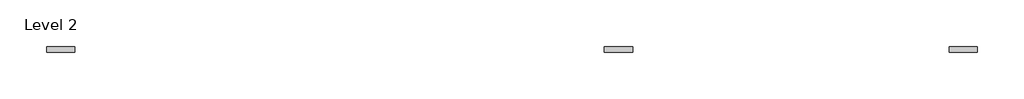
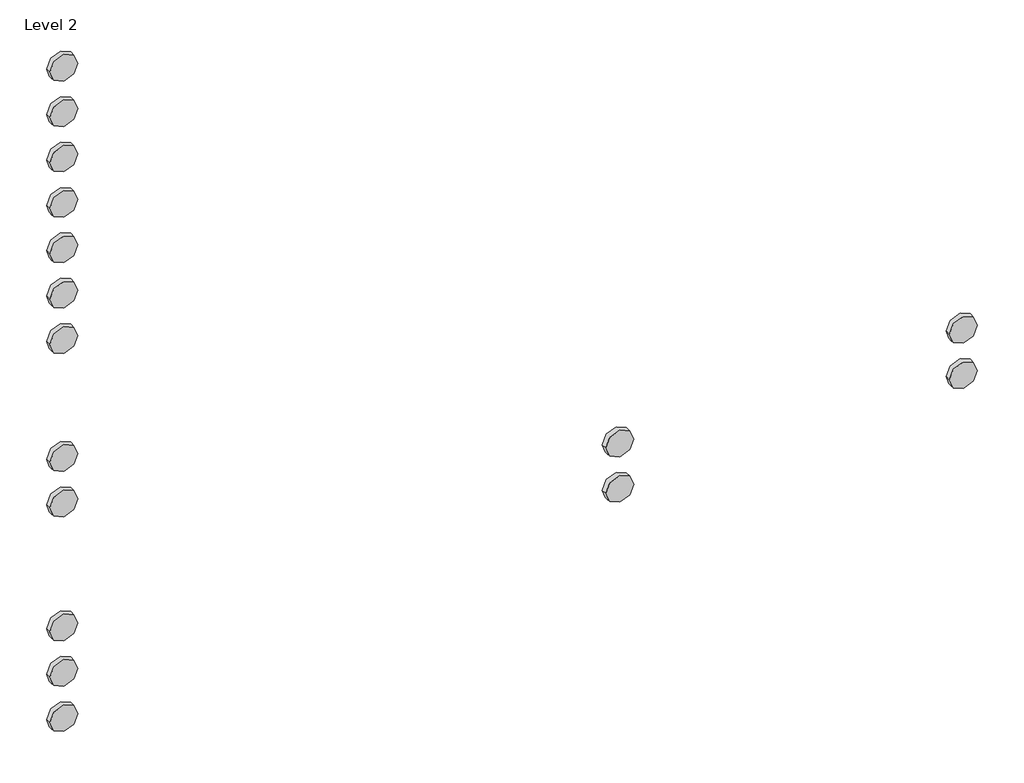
# One storey: 16 proxies.
"""IFC4 building model written with IfcOpenShell, lengths in millimetres."""

from ifc_helpers import new_model, si_unit, origin, place, context, project, spatial, transform, mapped, element, save
from components import materialmodel_materialmodel_13df9e44

model = new_model("IFC4")

# Units and contexts
model_context = context("Model", 3, world=origin())
ifc_project = project(units=[si_unit("LENGTHUNIT", "METRE", prefix="MILLI")], contexts=[model_context])

# Site, building, storey
site = spatial("IfcSite", under=ifc_project)
building = spatial("IfcBuilding", under=site)
storey = spatial("IfcBuildingStorey", under=building, Name="Level 2", Elevation=4000.0)

# Proxies
placement = place(None, origin())
materialmodel_materialmodel_shape = materialmodel_materialmodel_13df9e44(model_context)
element("IfcBuildingElementProxy", 1, Name="MaterialModel : MaterialModel", ObjectType="MaterialModel : MaterialModel", at=placement, inside=storey, context=model_context, shape_type="MappedRepresentation", body=[
    mapped(materialmodel_materialmodel_shape, transform((-4814.6293305, 28.2129507, -102.718204), x_axis=(1.0, 0.0, 0.0), y_axis=(0.0, 1.0, 0.0), z_axis=(0.0, 0.0, 1.0))),
])
element("IfcBuildingElementProxy", 2, Name="MaterialModel : MaterialModel", ObjectType="MaterialModel : MaterialModel", at=placement, inside=storey, context=model_context, shape_type="MappedRepresentation", body=[
    mapped(materialmodel_materialmodel_shape, transform((-4814.6293305, 28.2129507, -738.8923462), x_axis=(1.0, 0.0, 0.0), y_axis=(0.0, 1.0, 0.0), z_axis=(0.0, 0.0, 1.0))),
])
element("IfcBuildingElementProxy", 3, Name="MaterialModel : MaterialModel", ObjectType="MaterialModel : MaterialModel", at=placement, inside=storey, context=model_context, shape_type="MappedRepresentation", body=[
    mapped(materialmodel_materialmodel_shape, transform((-1622.2970499, 28.2129507, -738.8923462), x_axis=(1.0, 0.0, 0.0), y_axis=(0.0, 1.0, 0.0), z_axis=(0.0, 0.0, 1.0))),
])
element("IfcBuildingElementProxy", 4, Name="MaterialModel : MaterialModel", ObjectType="MaterialModel : MaterialModel", at=placement, inside=storey, context=model_context, shape_type="MappedRepresentation", body=[
    mapped(materialmodel_materialmodel_shape, transform((-4814.6293305, 28.2129507, -273.1991516), x_axis=(1.0, 0.0, 0.0), y_axis=(0.0, 1.0, 0.0), z_axis=(0.0, 0.0, 1.0))),
])
element("IfcBuildingElementProxy", 5, Name="MaterialModel : MaterialModel", ObjectType="MaterialModel : MaterialModel", at=placement, inside=storey, context=model_context, shape_type="MappedRepresentation", body=[
    mapped(materialmodel_materialmodel_shape, transform((-4814.6293305, 28.2129507, -909.3732938), x_axis=(1.0, 0.0, 0.0), y_axis=(0.0, 1.0, 0.0), z_axis=(0.0, 0.0, 1.0))),
])
element("IfcBuildingElementProxy", 6, Name="MaterialModel : MaterialModel", ObjectType="MaterialModel : MaterialModel", at=placement, inside=storey, context=model_context, shape_type="MappedRepresentation", body=[
    mapped(materialmodel_materialmodel_shape, transform((-1622.2970499, 28.2129507, -909.3732938), x_axis=(1.0, 0.0, 0.0), y_axis=(0.0, 1.0, 0.0), z_axis=(0.0, 0.0, 1.0))),
])
element("IfcBuildingElementProxy", 7, Name="MaterialModel : MaterialModel", ObjectType="MaterialModel : MaterialModel", at=placement, inside=storey, context=model_context, shape_type="MappedRepresentation", body=[
    mapped(materialmodel_materialmodel_shape, transform((-4814.6293305, 28.2129507, 1362.4370846), x_axis=(1.0, 0.0, 0.0), y_axis=(0.0, 1.0, 0.0), z_axis=(0.0, 0.0, 1.0))),
])
element("IfcBuildingElementProxy", 8, Name="MaterialModel : MaterialModel", ObjectType="MaterialModel : MaterialModel", at=placement, inside=storey, context=model_context, shape_type="MappedRepresentation", body=[
    mapped(materialmodel_materialmodel_shape, transform((-4814.6293305, 28.2129507, 1191.956137), x_axis=(1.0, 0.0, 0.0), y_axis=(0.0, 1.0, 0.0), z_axis=(0.0, 0.0, 1.0))),
])
element("IfcBuildingElementProxy", 9, Name="MaterialModel : MaterialModel", ObjectType="MaterialModel : MaterialModel", at=placement, inside=storey, context=model_context, shape_type="MappedRepresentation", body=[
    mapped(materialmodel_materialmodel_shape, transform((-4814.6293305, 28.2129507, 1021.4751894), x_axis=(1.0, 0.0, 0.0), y_axis=(0.0, 1.0, 0.0), z_axis=(0.0, 0.0, 1.0))),
])
element("IfcBuildingElementProxy", 10, Name="MaterialModel : MaterialModel", ObjectType="MaterialModel : MaterialModel", at=placement, inside=storey, context=model_context, shape_type="MappedRepresentation", body=[
    mapped(materialmodel_materialmodel_shape, transform((-4814.6293305, 28.2129507, 850.9942418), x_axis=(1.0, 0.0, 0.0), y_axis=(0.0, 1.0, 0.0), z_axis=(0.0, 0.0, 1.0))),
])
element("IfcBuildingElementProxy", 11, Name="MaterialModel : MaterialModel", ObjectType="MaterialModel : MaterialModel", at=placement, inside=storey, context=model_context, shape_type="MappedRepresentation", body=[
    mapped(materialmodel_materialmodel_shape, transform((-4814.6293305, 28.2129507, -1079.8542414), x_axis=(1.0, 0.0, 0.0), y_axis=(0.0, 1.0, 0.0), z_axis=(0.0, 0.0, 1.0))),
])
element("IfcBuildingElementProxy", 12, Name="MaterialModel : MaterialModel", ObjectType="MaterialModel : MaterialModel", at=placement, inside=storey, context=model_context, shape_type="MappedRepresentation", body=[
    mapped(materialmodel_materialmodel_shape, transform((-4814.6293305, 28.2129507, 680.8785112), x_axis=(1.0, 0.0, 0.0), y_axis=(0.0, 1.0, 0.0), z_axis=(0.0, 0.0, 1.0))),
])
element("IfcBuildingElementProxy", 13, Name="MaterialModel : MaterialModel", ObjectType="MaterialModel : MaterialModel", at=placement, inside=storey, context=model_context, shape_type="MappedRepresentation", body=[
    mapped(materialmodel_materialmodel_shape, transform((-4814.6293305, 28.2129507, 510.3975636), x_axis=(1.0, 0.0, 0.0), y_axis=(0.0, 1.0, 0.0), z_axis=(0.0, 0.0, 1.0))),
])
element("IfcBuildingElementProxy", 14, Name="MaterialModel : MaterialModel", ObjectType="MaterialModel : MaterialModel", at=placement, inside=storey, context=model_context, shape_type="MappedRepresentation", body=[
    mapped(materialmodel_materialmodel_shape, transform((-4814.6293305, 28.2129507, 339.916616), x_axis=(1.0, 0.0, 0.0), y_axis=(0.0, 1.0, 0.0), z_axis=(0.0, 0.0, 1.0))),
])
element("IfcBuildingElementProxy", 15, Name="MaterialModel : MaterialModel", ObjectType="MaterialModel : MaterialModel", at=placement, inside=storey, context=model_context, shape_type="MappedRepresentation", body=[
    mapped(materialmodel_materialmodel_shape, transform((-2841.9840987, 28.2129507, -738.8923462), x_axis=(1.0, 0.0, 0.0), y_axis=(0.0, 1.0, 0.0), z_axis=(0.0, 0.0, 1.0))),
])
element("IfcBuildingElementProxy", 16, Name="MaterialModel : MaterialModel", ObjectType="MaterialModel : MaterialModel", at=placement, inside=storey, context=model_context, shape_type="MappedRepresentation", body=[
    mapped(materialmodel_materialmodel_shape, transform((-2841.9840987, 28.2129507, -909.3732938), x_axis=(1.0, 0.0, 0.0), y_axis=(0.0, 1.0, 0.0), z_axis=(0.0, 0.0, 1.0))),
])

save(model, "model.ifc")
